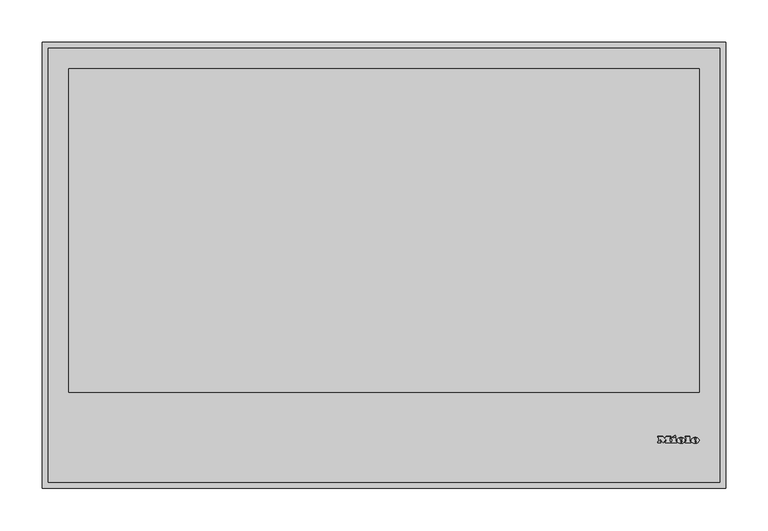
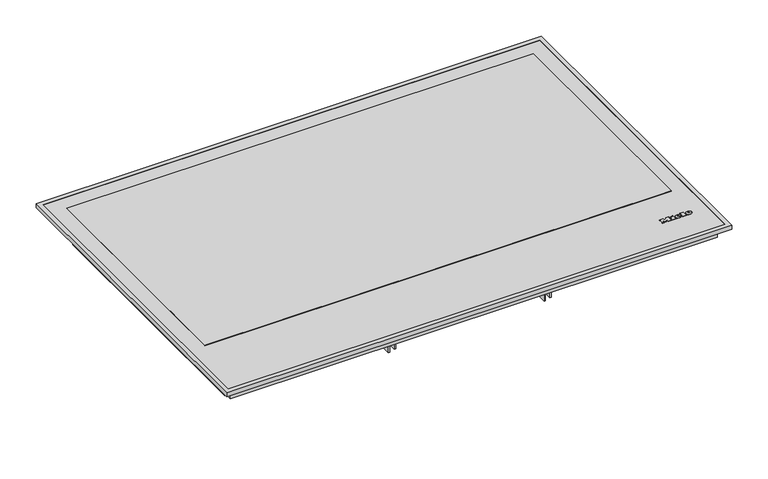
"""IFC4 building model written with IfcOpenShell, lengths in millimetres: proxy geometry, 11128740_D_KM7678FR : 26767800_D_11128740_KM7678FR."""

from ifc_helpers import new_model, si_unit, point, frame, frame_2d, origin, place, context, project, spatial, polyline, circle_curve, ellipse_curve, trimmed, segment, composite_curve, outline, extrude, faceted_brep, source, transform, mapped, element, save
from ifc_brep_helpers import plane_surface, cylinder_surface, revolved_surface, extruded_surface, advanced_brep


def specialty_equipment_bfc486c6(model_context):
    return source(origin(), model_context, "Body", "SolidModel", [
        advanced_brep(
        [(366.36, 55.3948833, 6.4802537), (366.36, 56.2028828, 6.4811551), (371.712, 56.2028828, 6.4811551), (362.4, 56.2028828, 6.4811551), (364.6, 53.4988845, 6.4781386), (371.576, 55.3948833, 6.4802537), (369.16, 55.3948833, 6.4802537), (367.256, 54.4988838, 6.4792542), (366.36, 57.2268821, 6.4822974), (366.36, 58.0988816, 6.4832701), (367.728, 58.0988816, 6.4832701), (367.728, 57.2268821, 6.4822974), (366.36, 55.3959988, 5.4802543), (367.256, 54.4999994, 5.4792548), (369.16, 55.3959988, 5.4802543), (371.576, 55.3959988, 5.4802543), (364.6, 53.5, 5.4781393), (362.4, 56.2039983, 5.4811557), (371.712, 56.2039983, 5.4811557), (366.36, 56.2039983, 5.4811557), (366.36, 57.2279977, 5.482298), (367.728, 57.2279977, 5.482298), (367.728, 58.0999971, 5.4832707), (366.36, 58.0999971, 5.4832707)],
        [
            (0, 1),
            (1, 2),
            (2, 3, ellipse_curve(frame((367.056, 56.2028828, 6.4811551), z_axis=(0.0, -0.0011155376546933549, 0.9999993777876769), x_axis=(-1.0, 0.0, 0.0)), 4.656, 3.848)),
            (3, 4, circle_curve(frame((365.4960436, 56.4748826, 6.4814585), z_axis=(0.0, -0.0011155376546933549, 0.9999993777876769), x_axis=(0.0, -0.9999993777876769, -0.0011155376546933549)), 3.1079688)),
            (4, 5, circle_curve(frame((366.9627936, 58.5868813, 6.4838145), z_axis=(0.0, -0.0011155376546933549, 0.9999993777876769), x_axis=(0.0, -0.9999993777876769, -0.0011155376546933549)), 5.6098607)),
            (5, 6),
            (6, 7, circle_curve(frame((367.6470588, 56.1388828, 6.4810837), z_axis=(0.0, 0.0011155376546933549, -0.9999993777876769), x_axis=(0.0, -0.9999993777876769, -0.0011155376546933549)), 1.6859795)),
            (7, 0, circle_curve(frame((367.256, 55.3948833, 6.4802537), z_axis=(0.0, 0.0011155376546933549, -0.9999993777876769), x_axis=(0.0, -0.9999993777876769, -0.0011155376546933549)), 0.896)),
            (8, 9),
            (9, 10, circle_curve(frame((367.044, 58.0988816, 6.4832701), z_axis=(0.0, 0.0011155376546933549, -0.9999993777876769), x_axis=(0.0, -0.9999993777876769, -0.0011155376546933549)), 0.684)),
            (10, 11),
            (11, 8),
            (12, 13, circle_curve(frame((367.256, 55.3959988, 5.4802543), z_axis=(0.0, -0.0011155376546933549, 0.9999993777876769), x_axis=(0.0, -0.9999993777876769, -0.0011155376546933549)), 0.896)),
            (13, 14, circle_curve(frame((367.6470588, 56.1399984, 5.4810843), z_axis=(0.0, -0.0011155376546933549, 0.9999993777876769), x_axis=(0.0, -0.9999993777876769, -0.0011155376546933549)), 1.6859795)),
            (14, 15),
            (15, 16, circle_curve(frame((366.9627936, 58.5879968, 5.4838151), z_axis=(0.0, 0.0011155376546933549, -0.9999993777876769), x_axis=(0.0, -0.9999993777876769, -0.0011155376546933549)), 5.6098607)),
            (16, 17, circle_curve(frame((365.4960436, 56.4759981, 5.4814591), z_axis=(0.0, 0.0011155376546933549, -0.9999993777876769), x_axis=(0.0, -0.9999993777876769, -0.0011155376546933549)), 3.1079688)),
            (17, 18, ellipse_curve(frame((367.056, 56.2039983, 5.4811557), z_axis=(0.0, 0.0011155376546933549, -0.9999993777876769), x_axis=(-1.0, 0.0, 0.0)), 4.656, 3.848)),
            (18, 19),
            (19, 12),
            (20, 21),
            (21, 22),
            (22, 23, circle_curve(frame((367.044, 58.0999971, 5.4832707), z_axis=(0.0, -0.0011155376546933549, 0.9999993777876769), x_axis=(0.0, -0.9999993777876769, -0.0011155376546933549)), 0.684)),
            (23, 20),
            (0, 12),
            (19, 1),
            (18, 2),
            (5, 15),
            (14, 6),
            (17, 3),
            (13, 7),
            (16, 4),
            (8, 20),
            (23, 9),
            (22, 10),
            (21, 11),
        ],
        [
            plane_surface(frame((366.36, 56.2028828, 6.4811551), z_axis=(0.0, -0.0011155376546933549, 0.9999993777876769), x_axis=(0.0, 0.9999993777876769, 0.0011155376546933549))),
            plane_surface(frame((366.36, 56.2039983, 5.4811557), z_axis=(0.0, 0.0011155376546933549, -0.9999993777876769), x_axis=(0.0, -0.9999993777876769, -0.0011155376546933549))),
            plane_surface(frame((366.36, 55.3948833, 6.4802537), z_axis=(1.0000000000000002, 0.0, 0.0), x_axis=(0.0, 0.001115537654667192, -0.999999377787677))),
            plane_surface(frame((366.36, 56.2028828, 6.4811551), z_axis=(0.0, -0.999999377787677, -0.001115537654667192), x_axis=(0.0, 0.001115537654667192, -0.999999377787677))),
            plane_surface(frame((371.576, 55.3948833, 6.4802537), z_axis=(0.0, 0.999999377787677, 0.001115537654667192), x_axis=(0.0, 0.001115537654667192, -0.999999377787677))),
            extruded_surface(trimmed(ellipse_curve(frame((367.056, 56.2051139, 4.4811563), z_axis=(0.0, -0.0011155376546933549, 0.9999993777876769), x_axis=(-1.0, 0.0, 0.0)), 4.656, 3.848), [point((371.712, 56.2051139, 4.4811563))], [point((362.4, 56.2051139, 4.4811563))], True, "CARTESIAN"), (0.0, -0.001115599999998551, 0.9999994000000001), 1.00000002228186),
            revolved_surface(polyline([(367.6470588, 54.454019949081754, 5.479203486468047), (367.6470588, 54.45290441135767, 6.4792029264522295)]), (367.6470588, 56.1399984, 5.4810843), (0.0, 0.0011155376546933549, -0.9999993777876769)),
            revolved_surface(polyline([(367.256, 54.49999935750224, 5.479254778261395), (367.256, 54.49888381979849, 6.479254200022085)]), (367.256, 55.3959988, 5.4802543), (0.0, 0.0011155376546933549, -0.9999993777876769)),
            cylinder_surface(frame((365.4960436, 56.4759981, 5.4814591), z_axis=(0.0, -0.0011155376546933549, 0.9999993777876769), x_axis=(0.0, -0.9999993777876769, -0.0011155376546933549)), 3.1079688),
            cylinder_surface(frame((366.9627936, 58.5879968, 5.4838151), z_axis=(0.0, -0.0011155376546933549, 0.9999993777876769), x_axis=(0.0, -0.9999993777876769, -0.0011155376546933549)), 5.6098607),
            plane_surface(frame((366.36, 57.2268821, 6.4822974), z_axis=(1.0000000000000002, 0.0, 0.0), x_axis=(0.0, 0.001115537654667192, -0.999999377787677))),
            revolved_surface(polyline([(367.044, 57.415997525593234, 5.48250767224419), (367.044, 57.41488198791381, 6.482507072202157)]), (367.044, 58.0999971, 5.4832707), (0.0, 0.0011155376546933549, -0.9999993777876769)),
            plane_surface(frame((367.728, 58.0988816, 6.4832701), z_axis=(-1.0000000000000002, 0.0, 0.0), x_axis=(0.0, 0.001115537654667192, -0.999999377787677))),
            plane_surface(frame((367.728, 57.2268821, 6.4822974), z_axis=(0.0, 0.999999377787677, 0.001115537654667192), x_axis=(0.0, 0.001115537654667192, -0.999999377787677))),
        ],
        [
            (0, [[1, 2, 3, 4, 5, 6, 7, 8], [9, 10, 11, 12]]),
            (1, [[13, 14, 15, 16, 17, 18, 19, 20], [21, 22, 23, 24]]),
            (2, [[-1, 25, -20, 26]]),
            (3, [[-2, -26, -19, 27]]),
            (4, [[-6, 28, -15, 29]]),
            (5, [[-3, -27, -18, 30]]),
            (6, [[-7, -29, -14, 31]]),
            (7, [[-8, -31, -13, -25]]),
            (8, [[-4, -30, -17, 32]]),
            (9, [[-5, -32, -16, -28]]),
            (10, [[-9, 33, -24, 34]]),
            (11, [[-10, -34, -23, 35]]),
            (12, [[-11, -35, -22, 36]]),
            (13, [[-12, -36, -21, -33]]),
        ],
    ),
        advanced_brep(
        [(349.664, 55.3948833, 6.4802537), (349.664, 56.2028828, 6.4811551), (355.016, 56.2028828, 6.4811551), (345.704, 56.2028828, 6.4811551), (347.904, 53.4988845, 6.4781386), (354.88, 55.3948833, 6.4802537), (352.464, 55.3948833, 6.4802537), (350.56, 54.4988838, 6.4792542), (349.664, 57.2268821, 6.4822974), (349.664, 58.0988816, 6.4832701), (351.032, 58.0988816, 6.4832701), (351.032, 57.2268821, 6.4822974), (349.664, 55.3959988, 5.4802543), (350.56, 54.4999994, 5.4792548), (352.464, 55.3959988, 5.4802543), (354.88, 55.3959988, 5.4802543), (347.904, 53.5, 5.4781393), (345.704, 56.2039983, 5.4811557), (355.016, 56.2039983, 5.4811557), (349.664, 56.2039983, 5.4811557), (349.664, 57.2279977, 5.482298), (351.032, 57.2279977, 5.482298), (351.032, 58.0999971, 5.4832707), (349.664, 58.0999971, 5.4832707)],
        [
            (0, 1),
            (1, 2),
            (2, 3, ellipse_curve(frame((350.36, 56.2028828, 6.4811551), z_axis=(0.0, -0.0011155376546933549, 0.9999993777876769), x_axis=(-1.0, 0.0, 0.0)), 4.656, 3.848)),
            (3, 4, circle_curve(frame((348.8000436, 56.4748826, 6.4814585), z_axis=(0.0, -0.0011155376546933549, 0.9999993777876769), x_axis=(0.0, -0.9999993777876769, -0.0011155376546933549)), 3.1079688)),
            (4, 5, circle_curve(frame((350.2667936, 58.5868813, 6.4838145), z_axis=(0.0, -0.0011155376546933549, 0.9999993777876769), x_axis=(0.0, -0.9999993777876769, -0.0011155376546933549)), 5.6098607)),
            (5, 6),
            (6, 7, circle_curve(frame((350.9510588, 56.1388828, 6.4810837), z_axis=(0.0, 0.0011155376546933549, -0.9999993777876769), x_axis=(0.0, -0.9999993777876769, -0.0011155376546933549)), 1.6859795)),
            (7, 0, circle_curve(frame((350.56, 55.3948833, 6.4802537), z_axis=(0.0, 0.0011155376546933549, -0.9999993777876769), x_axis=(0.0, -0.9999993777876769, -0.0011155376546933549)), 0.896)),
            (8, 9),
            (9, 10, circle_curve(frame((350.348, 58.0988816, 6.4832701), z_axis=(0.0, 0.0011155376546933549, -0.9999993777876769), x_axis=(0.0, -0.9999993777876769, -0.0011155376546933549)), 0.684)),
            (10, 11),
            (11, 8),
            (12, 13, circle_curve(frame((350.56, 55.3959988, 5.4802543), z_axis=(0.0, -0.0011155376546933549, 0.9999993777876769), x_axis=(0.0, -0.9999993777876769, -0.0011155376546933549)), 0.896)),
            (13, 14, circle_curve(frame((350.9510588, 56.1399984, 5.4810843), z_axis=(0.0, -0.0011155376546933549, 0.9999993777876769), x_axis=(0.0, -0.9999993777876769, -0.0011155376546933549)), 1.6859795)),
            (14, 15),
            (15, 16, circle_curve(frame((350.2667936, 58.5879968, 5.4838151), z_axis=(0.0, 0.0011155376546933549, -0.9999993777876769), x_axis=(0.0, -0.9999993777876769, -0.0011155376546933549)), 5.6098607)),
            (16, 17, circle_curve(frame((348.8000436, 56.4759981, 5.4814591), z_axis=(0.0, 0.0011155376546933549, -0.9999993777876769), x_axis=(0.0, -0.9999993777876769, -0.0011155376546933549)), 3.1079688)),
            (17, 18, ellipse_curve(frame((350.36, 56.2039983, 5.4811557), z_axis=(0.0, 0.0011155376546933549, -0.9999993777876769), x_axis=(-1.0, 0.0, 0.0)), 4.656, 3.848)),
            (18, 19),
            (19, 12),
            (20, 21),
            (21, 22),
            (22, 23, circle_curve(frame((350.348, 58.0999971, 5.4832707), z_axis=(0.0, -0.0011155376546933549, 0.9999993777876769), x_axis=(0.0, -0.9999993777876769, -0.0011155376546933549)), 0.684)),
            (23, 20),
            (0, 12),
            (19, 1),
            (18, 2),
            (5, 15),
            (14, 6),
            (17, 3),
            (13, 7),
            (16, 4),
            (8, 20),
            (23, 9),
            (22, 10),
            (21, 11),
        ],
        [
            plane_surface(frame((349.664, 56.2028828, 6.4811551), z_axis=(0.0, -0.0011155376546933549, 0.9999993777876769), x_axis=(0.0, 0.9999993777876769, 0.0011155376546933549))),
            plane_surface(frame((349.664, 56.2039983, 5.4811557), z_axis=(0.0, 0.0011155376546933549, -0.9999993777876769), x_axis=(0.0, -0.9999993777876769, -0.0011155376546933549))),
            plane_surface(frame((349.664, 55.3948833, 6.4802537), z_axis=(1.0000000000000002, 0.0, 0.0), x_axis=(0.0, 0.001115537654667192, -0.999999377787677))),
            plane_surface(frame((349.664, 56.2028828, 6.4811551), z_axis=(0.0, -0.999999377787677, -0.001115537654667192), x_axis=(0.0, 0.001115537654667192, -0.999999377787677))),
            plane_surface(frame((354.88, 55.3948833, 6.4802537), z_axis=(0.0, 0.999999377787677, 0.001115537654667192), x_axis=(0.0, 0.001115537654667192, -0.999999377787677))),
            extruded_surface(trimmed(ellipse_curve(frame((350.36, 56.2051139, 4.4811563), z_axis=(0.0, -0.0011155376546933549, 0.9999993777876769), x_axis=(-1.0, 0.0, 0.0)), 4.656, 3.848), [point((355.016, 56.2051139, 4.4811563))], [point((345.704, 56.2051139, 4.4811563))], True, "CARTESIAN"), (0.0, -0.001115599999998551, 0.9999994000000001), 1.00000002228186),
            revolved_surface(polyline([(350.9510588, 54.454019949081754, 5.479203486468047), (350.9510588, 54.45290441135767, 6.4792029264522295)]), (350.9510588, 56.1399984, 5.4810843), (0.0, 0.0011155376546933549, -0.9999993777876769)),
            revolved_surface(polyline([(350.56, 54.49999935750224, 5.479254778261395), (350.56, 54.49888381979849, 6.479254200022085)]), (350.56, 55.3959988, 5.4802543), (0.0, 0.0011155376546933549, -0.9999993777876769)),
            cylinder_surface(frame((348.8000436, 56.4759981, 5.4814591), z_axis=(0.0, -0.0011155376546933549, 0.9999993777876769), x_axis=(0.0, -0.9999993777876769, -0.0011155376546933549)), 3.1079688),
            cylinder_surface(frame((350.2667936, 58.5879968, 5.4838151), z_axis=(0.0, -0.0011155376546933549, 0.9999993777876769), x_axis=(0.0, -0.9999993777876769, -0.0011155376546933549)), 5.6098607),
            plane_surface(frame((349.664, 57.2268821, 6.4822974), z_axis=(1.0000000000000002, 0.0, 0.0), x_axis=(0.0, 0.001115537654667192, -0.999999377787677))),
            revolved_surface(polyline([(350.348, 57.415997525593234, 5.48250767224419), (350.348, 57.41488198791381, 6.482507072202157)]), (350.348, 58.0999971, 5.4832707), (0.0, 0.0011155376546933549, -0.9999993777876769)),
            plane_surface(frame((351.032, 58.0988816, 6.4832701), z_axis=(-1.0000000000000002, 0.0, 0.0), x_axis=(0.0, 0.001115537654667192, -0.999999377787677))),
            plane_surface(frame((351.032, 57.2268821, 6.4822974), z_axis=(0.0, 0.999999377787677, 0.001115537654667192), x_axis=(0.0, 0.001115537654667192, -0.999999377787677))),
        ],
        [
            (0, [[1, 2, 3, 4, 5, 6, 7, 8], [9, 10, 11, 12]]),
            (1, [[13, 14, 15, 16, 17, 18, 19, 20], [21, 22, 23, 24]]),
            (2, [[-1, 25, -20, 26]]),
            (3, [[-2, -26, -19, 27]]),
            (4, [[-6, 28, -15, 29]]),
            (5, [[-3, -27, -18, 30]]),
            (6, [[-7, -29, -14, 31]]),
            (7, [[-8, -31, -13, -25]]),
            (8, [[-4, -30, -17, 32]]),
            (9, [[-5, -32, -16, -28]]),
            (10, [[-9, 33, -24, 34]]),
            (11, [[-10, -34, -23, 35]]),
            (12, [[-11, -35, -22, 36]]),
            (13, [[-12, -36, -21, -33]]),
        ],
    ),
        extrude(outline(polyline([(0.0, 0.0), (-0.0109086, -2.9993294), (-1.4390415, -2.9920868), (-1.4315307, 0.0), (0.0, 0.0)])), frame((340.92, 61.0279953, 5.486537), z_axis=(0.0, -0.001115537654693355, 0.999999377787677), x_axis=(-0.4247202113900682, 0.9053240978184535, 0.0010099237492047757)), (0.0, 0.0, 1.0), 1.0),
        extrude(outline(polyline([(-0.4933908, 2.4141097), (-2.7800844, -2.4601583), (-7.0459741, -0.4588767), (-7.4401145, -1.299018), (-8.6568709, -0.728194), (-5.9760369, 4.9862153), (-4.7592805, 4.4153913), (-5.1636142, 3.5535222), (-2.1941493, 2.1604399), (-1.7898157, 3.022309), (-0.4933908, 2.4141097)])), frame((340.92, 61.0279953, 5.486537), z_axis=(0.0, -0.001115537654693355, 0.999999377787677), x_axis=(-0.4247202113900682, 0.9053240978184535, 0.0010099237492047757)), (0.0, 0.0, 1.0), 1.0),
        extrude(outline(polyline([(0.0, 0.0), (0.0, -1.304), (-5.504, -1.304), (-5.504, 5.3519999), (-6.488, 5.3519999), (-6.488, 6.696), (0.0, 6.696), (0.0, 5.3519999), (-0.96, 5.3519999), (-0.96, 0.0), (0.0, 0.0)])), frame((355.464, 60.1959958, 5.4856089), z_axis=(0.0, -0.0011155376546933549, 0.9999993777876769), x_axis=(-1.0, 0.0, 0.0)), (0.0, 0.0, 1.0), 1.0),
        extrude(outline(polyline([(0.0, 0.0), (0.0, -1.304), (-5.576, -1.304), (-7.92, 1.696), (-10.256, -1.304), (-15.128, -1.304), (-15.128, 0.0), (-14.112, 0.0), (-14.112, 5.3519999), (-15.128, 5.3519999), (-15.128, 6.696), (-8.744, 6.696), (-8.744, 5.3519999), (-9.728, 5.3519999), (-9.728, 1.8807777), (-6.136, 6.696), (-2.56, 1.9488752), (-2.56, 5.3519999), (-3.52, 5.3519999), (-3.52, 6.696), (0.0, 6.696), (0.0, 5.3519999), (-0.968, 5.3519999), (-0.968, 0.0), (0.0, 0.0)])), frame((323.0, 60.1959958, 5.4856089), z_axis=(0.0, -0.0011155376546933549, 0.9999993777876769), x_axis=(-1.0, 0.0, 0.0)), (0.0, 0.0, 1.0), 1.0),
        extrude(outline(polyline([(316.2772603, 462.5), (308.9, 462.5), (308.9, 463.7557039), (315.0215564, 463.7557039), (315.0215564, 467.0519266), (309.370889, 467.0519266), (309.370889, 468.3076304), (315.0215564, 468.3076304), (315.0215564, 471.2899271), (309.056963, 471.2899271), (309.056963, 472.545631), (316.2772603, 472.545631), (316.2772603, 462.5)])), frame((0.0, 0.0, -77.5), z_axis=(0.0, 0.0, 1.0), x_axis=(1.0, 0.0, 0.0)), (0.0, 0.0, 1.0), 1.0),
        extrude(outline(polyline([(307.0164442, 462.5), (300.7379248, 462.5), (300.7379248, 463.7557039), (305.7607403, 463.7557039), (305.7607403, 472.545631), (307.0164442, 472.545631), (307.0164442, 462.5)])), frame((0.0, 0.0, -77.5), z_axis=(0.0, 0.0, 1.0), x_axis=(1.0, 0.0, 0.0)), (0.0, 0.0, 1.0), 1.0),
        extrude(outline(polyline([(17.0, -27.0), (17.0, -16.8), (61.0, -16.8), (61.0, -43.0), (33.0, -43.0), (33.0, -27.0), (17.0, -27.0)])), frame((122.6666667, 0.0, 0.0), z_axis=(1.0, 0.0, 0.0), x_axis=(0.0, 1.0, 0.0)), (0.0, 0.0, 1.0), 2.0),
        extrude(outline(polyline([(481.0, -16.8), (509.0, -16.8), (509.0, -27.0), (493.0, -27.0), (493.0, -43.0), (481.0, -43.0), (481.0, -16.8)])), frame((122.6666667, 0.0, 0.0), z_axis=(1.0, 0.0, 0.0), x_axis=(0.0, 1.0, 0.0)), (0.0, 0.0, 1.0), 2.0),
        extrude(outline(polyline([(17.0, -27.0), (17.0, -16.8), (61.0, -16.8), (61.0, -43.0), (33.0, -43.0), (33.0, -27.0), (17.0, -27.0)])), frame((-125.6666667, 0.0, 0.0), z_axis=(1.0, 0.0, 0.0), x_axis=(0.0, 1.0, 0.0)), (0.0, 0.0, 1.0), 2.0),
        extrude(outline(polyline([(493.0, -27.0), (493.0, -43.0), (481.0, -43.0), (481.0, -16.8), (509.0, -16.8), (509.0, -27.0), (493.0, -27.0)])), frame((-125.6666667, 0.0, 0.0), z_axis=(1.0, 0.0, 0.0), x_axis=(0.0, 1.0, 0.0)), (0.0, 0.0, 1.0), 2.0),
        extrude(outline(polyline([(371.0, 481.0), (371.0, 61.0), (-371.0, 61.0), (-371.0, 481.0), (371.0, 481.0)])), frame((0.0, 0.0, -46.5), z_axis=(0.0, 0.0, 1.0), x_axis=(1.0, 0.0, 0.0)), (0.0, 0.0, 1.0), 29.7),
        extrude(outline(polyline([(402.0, 524.0), (402.0, 1.0), (-402.0, 1.0), (-402.0, 524.0), (402.0, 524.0)])), frame((0.0, 0.0, 2.0), z_axis=(0.0, 0.0, 1.0), x_axis=(1.0, 0.0, 0.0)), (0.0, 0.0, 1.0), 4.0),
        extrude(outline(polyline([(388.5, 511.5), (388.5, 14.5), (-388.5, 14.5), (-388.5, 511.5), (388.5, 511.5)])), frame((0.0, 0.0, -16.8), z_axis=(0.0, 0.0, 1.0), x_axis=(1.0, 0.0, 0.0)), (0.0, 0.0, 1.0), 18.8),
        faceted_brep([(396.0, 519.0, 7.0), (396.0, 519.0, 6.0), (396.0, 7.0, 6.0), (396.0, 7.0, 7.0), (403.0, 526.0, 0.0), (403.0, 526.0, 7.0), (403.0, 0.0, 7.0), (403.0, 0.0, 0.0), (402.0, 525.0, 6.0), (402.0, 525.0, 0.0), (402.0, 1.0, 0.0), (402.0, 1.0, 6.0), (-396.0, 7.0, 6.0), (-396.0, 7.0, 7.0), (-403.0, 0.0, 7.0), (-403.0, 0.0, 0.0), (-402.0, 1.0, 0.0), (-402.0, 1.0, 6.0), (-396.0, 519.0, 6.0), (-396.0, 519.0, 7.0), (-403.0, 526.0, 7.0), (-403.0, 526.0, 0.0), (-402.0, 525.0, 0.0), (-402.0, 525.0, 6.0)], [[[0, 1, 2, 3]], [[4, 5, 6, 7]], [[8, 9, 10, 11]], [[3, 2, 12, 13]], [[7, 6, 14, 15]], [[11, 10, 16, 17]], [[13, 12, 18, 19]], [[15, 14, 20, 21]], [[17, 16, 22, 23]], [[19, 18, 1, 0]], [[5, 20, 14, 6], [3, 13, 19, 0]], [[21, 20, 5, 4]], [[7, 15, 21, 4], [9, 22, 16, 10]], [[23, 22, 9, 8]], [[11, 17, 23, 8], [1, 18, 12, 2]]]),
        extrude(outline(composite_curve([segment(trimmed(circle_curve(frame_2d((308.9, 467.5)), 7.5), [point((308.9, 475.0))], [point((308.9, 460.0))], False, "CARTESIAN"), True, "CONTINUOUS"), segment(trimmed(circle_curve(frame_2d((308.9, 467.5)), 7.5), [point((308.9, 460.0))], [point((308.9, 475.0))], False, "CARTESIAN"), True, "CONTINUOUS")], self_intersect=False)), frame((0.0, 0.0, -76.5), z_axis=(0.0, 0.0, 1.0), x_axis=(1.0, 0.0, 0.0)), (0.0, 0.0, 1.0), 30.0),
        extrude(outline(polyline([(372.0, 495.05), (372.0, 113.55), (-372.0, 113.55), (-372.0, 495.05), (372.0, 495.05)])), frame((0.0, 0.0, 6.0), z_axis=(0.0, 0.0, 1.0), x_axis=(1.0, 0.0, 0.0)), (0.0, 0.0, 1.0), 1.0),
        extrude(outline(composite_curve([segment(trimmed(circle_curve(frame_2d((-381.0, 83.0)), 3.0), [point((-381.0, 86.0))], [point((-381.0, 80.0))], False, "CARTESIAN"), True, "CONTINUOUS"), segment(trimmed(circle_curve(frame_2d((-381.0, 83.0)), 3.0), [point((-381.0, 80.0))], [point((-381.0, 86.0))], False, "CARTESIAN"), True, "CONTINUOUS")], self_intersect=False)), frame((0.0, 0.0, -22.0), z_axis=(0.0, 0.0, 1.0), x_axis=(1.0, 0.0, 0.0)), (0.0, 0.0, 1.0), 5.2),
        extrude(outline(composite_curve([segment(trimmed(circle_curve(frame_2d((381.0, 443.0)), 3.0), [point((381.0, 446.0))], [point((381.0, 440.0))], False, "CARTESIAN"), True, "CONTINUOUS"), segment(trimmed(circle_curve(frame_2d((381.0, 443.0)), 3.0), [point((381.0, 440.0))], [point((381.0, 446.0))], False, "CARTESIAN"), True, "CONTINUOUS")], self_intersect=False)), frame((0.0, 0.0, -22.0), z_axis=(0.0, 0.0, 1.0), x_axis=(1.0, 0.0, 0.0)), (0.0, 0.0, 1.0), 5.2),
    ])


if __name__ == "__main__":
    model = new_model("IFC4")
    model_context = context("Model", 3, world=origin())
    ifc_project = project(units=[si_unit("LENGTHUNIT", "METRE", prefix="MILLI")], contexts=[model_context])
    site = spatial("IfcSite", under=ifc_project)
    building = spatial("IfcBuilding", under=site)
    placement = place(None, origin())
    specialty_equipment_shape = specialty_equipment_bfc486c6(model_context)
    element("IfcBuildingElementProxy", 1, Name="11128740_D_KM7678FR : 26767800_D_11128740_KM7678FR", ObjectType="11128740_D_KM7678FR : 26767800_D_11128740_KM7678FR", at=placement, inside=building, context=model_context, shape_type="MappedRepresentation", body=[
        mapped(specialty_equipment_shape, transform((0.0, 0.0, 0.0), x_axis=(1.0, 0.0, 0.0), y_axis=(0.0, 1.0, 0.0), z_axis=(0.0, 0.0, 1.0))),
    ])
    save(model, "model.ifc")
